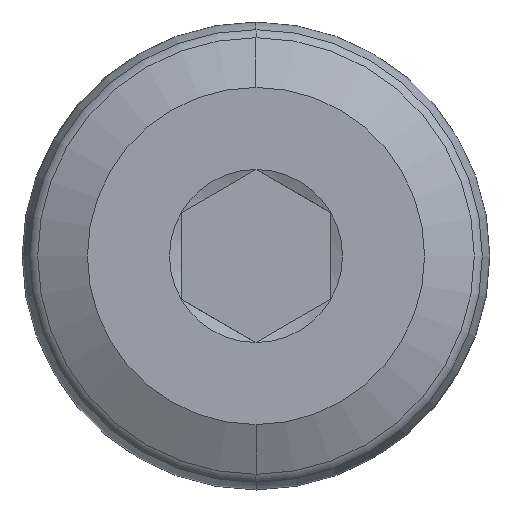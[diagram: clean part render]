
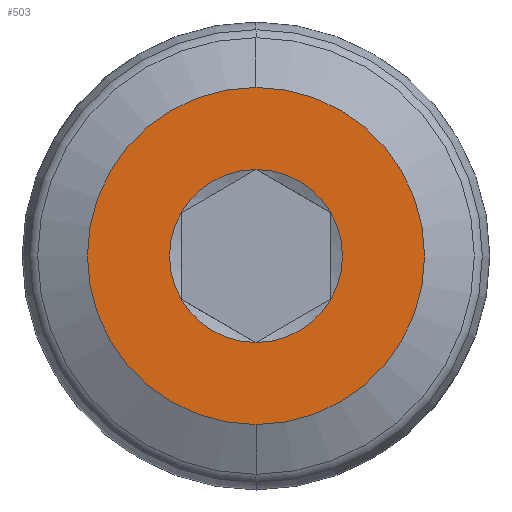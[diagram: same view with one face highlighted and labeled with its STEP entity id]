
A CAD part, left-side view. The second image highlights one B-rep face of the part: STEP entity #503.
In plain terms, the highlighted planar face has unit normal (-1, 0, 0).
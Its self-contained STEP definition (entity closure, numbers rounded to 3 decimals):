
#25 = DIRECTION ( 'NONE',  ( 1., 0., 0. ) ) ;
#27 = DIRECTION ( 'NONE',  ( 0., 0., -1. ) ) ;
#46 = EDGE_CURVE ( 'NONE', #353, #245, #74, .T. ) ;
#52 = EDGE_CURVE ( 'NONE', #546, #655, #671, .T. ) ;
#58 = PLANE ( 'NONE',  #312 ) ;
#74 = CIRCLE ( 'NONE', #621, 2.309 ) ;
#78 = AXIS2_PLACEMENT_3D ( 'NONE', #667, #601, #670 ) ;
#83 = DIRECTION ( 'NONE',  ( 0., 0., -1. ) ) ;
#103 = CARTESIAN_POINT ( 'NONE',  ( 0., -2., -1.155 ) ) ;
#126 = FACE_BOUND ( 'NONE', #768, .T. ) ;
#136 = DIRECTION ( 'NONE',  ( -1., 0., 0. ) ) ;
#161 = CARTESIAN_POINT ( 'NONE',  ( 0., 0., 0. ) ) ;
#170 = ORIENTED_EDGE ( 'NONE', *, *, #354, .T. ) ;
#174 = AXIS2_PLACEMENT_3D ( 'NONE', #439, #763, #753 ) ;
#224 = EDGE_CURVE ( 'NONE', #294, #681, #337, .T. ) ;
#227 = AXIS2_PLACEMENT_3D ( 'NONE', #461, #282, #658 ) ;
#245 = VERTEX_POINT ( 'NONE', #404 ) ;
#282 = DIRECTION ( 'NONE',  ( 1., 0., 0. ) ) ;
#286 = DIRECTION ( 'NONE',  ( 1., 0., 0. ) ) ;
#292 = CARTESIAN_POINT ( 'NONE',  ( 0., -2., 1.155 ) ) ;
#294 = VERTEX_POINT ( 'NONE', #446 ) ;
#312 = AXIS2_PLACEMENT_3D ( 'NONE', #385, #136, #459 ) ;
#327 = AXIS2_PLACEMENT_3D ( 'NONE', #714, #778, #449 ) ;
#337 = CIRCLE ( 'NONE', #810, 2.309 ) ;
#353 = VERTEX_POINT ( 'NONE', #103 ) ;
#354 = EDGE_CURVE ( 'NONE', #771, #622, #531, .T. ) ;
#355 = CARTESIAN_POINT ( 'NONE',  ( 0., 0., 4.5 ) ) ;
#372 = ORIENTED_EDGE ( 'NONE', *, *, #224, .T. ) ;
#385 = CARTESIAN_POINT ( 'NONE',  ( 0., 4.5, 0. ) ) ;
#393 = ORIENTED_EDGE ( 'NONE', *, *, #834, .T. ) ;
#404 = CARTESIAN_POINT ( 'NONE',  ( 0., 0., -2.309 ) ) ;
#420 = DIRECTION ( 'NONE',  ( 1., 0., 0. ) ) ;
#439 = CARTESIAN_POINT ( 'NONE',  ( 0., 0., 0. ) ) ;
#443 = CARTESIAN_POINT ( 'NONE',  ( 0., 0., 2.309 ) ) ;
#446 = CARTESIAN_POINT ( 'NONE',  ( 0., 2., -1.155 ) ) ;
#449 = DIRECTION ( 'NONE',  ( 0., 0., -1. ) ) ;
#451 = ORIENTED_EDGE ( 'NONE', *, *, #536, .T. ) ;
#459 = DIRECTION ( 'NONE',  ( 0., 0., 1. ) ) ;
#461 = CARTESIAN_POINT ( 'NONE',  ( 0., 0., 0. ) ) ;
#472 = CARTESIAN_POINT ( 'NONE',  ( 0., 0., -4.5 ) ) ;
#477 = CARTESIAN_POINT ( 'NONE',  ( 0., 0., 0. ) ) ;
#488 = CIRCLE ( 'NONE', #595, 4.5 ) ;
#489 = CIRCLE ( 'NONE', #78, 2.309 ) ;
#503 = ADVANCED_FACE ( 'NONE', ( #126, #720 ), #58, .T. ) ;
#531 = CIRCLE ( 'NONE', #174, 2.309 ) ;
#536 = EDGE_CURVE ( 'NONE', #245, #294, #743, .T. ) ;
#546 = VERTEX_POINT ( 'NONE', #355 ) ;
#553 = EDGE_CURVE ( 'NONE', #655, #546, #488, .T. ) ;
#573 = EDGE_LOOP ( 'NONE', ( #653, #788 ) ) ;
#592 = EDGE_CURVE ( 'NONE', #681, #771, #489, .T. ) ;
#595 = AXIS2_PLACEMENT_3D ( 'NONE', #809, #25, #83 ) ;
#597 = CARTESIAN_POINT ( 'NONE',  ( 0., 0., 0. ) ) ;
#601 = DIRECTION ( 'NONE',  ( 1., 0., 0. ) ) ;
#605 = DIRECTION ( 'NONE',  ( 0., 0., -1. ) ) ;
#608 = CIRCLE ( 'NONE', #327, 2.309 ) ;
#621 = AXIS2_PLACEMENT_3D ( 'NONE', #597, #650, #645 ) ;
#622 = VERTEX_POINT ( 'NONE', #292 ) ;
#623 = AXIS2_PLACEMENT_3D ( 'NONE', #477, #420, #605 ) ;
#627 = CARTESIAN_POINT ( 'NONE',  ( 0., 2., 1.155 ) ) ;
#645 = DIRECTION ( 'NONE',  ( 0., 0., -1. ) ) ;
#650 = DIRECTION ( 'NONE',  ( 1., 0., 0. ) ) ;
#653 = ORIENTED_EDGE ( 'NONE', *, *, #553, .F. ) ;
#655 = VERTEX_POINT ( 'NONE', #472 ) ;
#658 = DIRECTION ( 'NONE',  ( 0., 0., -1. ) ) ;
#667 = CARTESIAN_POINT ( 'NONE',  ( 0., 0., 0. ) ) ;
#670 = DIRECTION ( 'NONE',  ( 0., 0., -1. ) ) ;
#671 = CIRCLE ( 'NONE', #227, 4.5 ) ;
#677 = ORIENTED_EDGE ( 'NONE', *, *, #46, .T. ) ;
#681 = VERTEX_POINT ( 'NONE', #627 ) ;
#714 = CARTESIAN_POINT ( 'NONE',  ( 0., 0., 0. ) ) ;
#720 = FACE_OUTER_BOUND ( 'NONE', #573, .T. ) ;
#743 = CIRCLE ( 'NONE', #623, 2.309 ) ;
#753 = DIRECTION ( 'NONE',  ( 0., 0., -1. ) ) ;
#763 = DIRECTION ( 'NONE',  ( 1., 0., 0. ) ) ;
#768 = EDGE_LOOP ( 'NONE', ( #818, #170, #393, #677, #451, #372 ) ) ;
#771 = VERTEX_POINT ( 'NONE', #443 ) ;
#778 = DIRECTION ( 'NONE',  ( 1., 0., 0. ) ) ;
#788 = ORIENTED_EDGE ( 'NONE', *, *, #52, .F. ) ;
#809 = CARTESIAN_POINT ( 'NONE',  ( 0., 0., 0. ) ) ;
#810 = AXIS2_PLACEMENT_3D ( 'NONE', #161, #286, #27 ) ;
#818 = ORIENTED_EDGE ( 'NONE', *, *, #592, .T. ) ;
#834 = EDGE_CURVE ( 'NONE', #622, #353, #608, .T. ) ;
